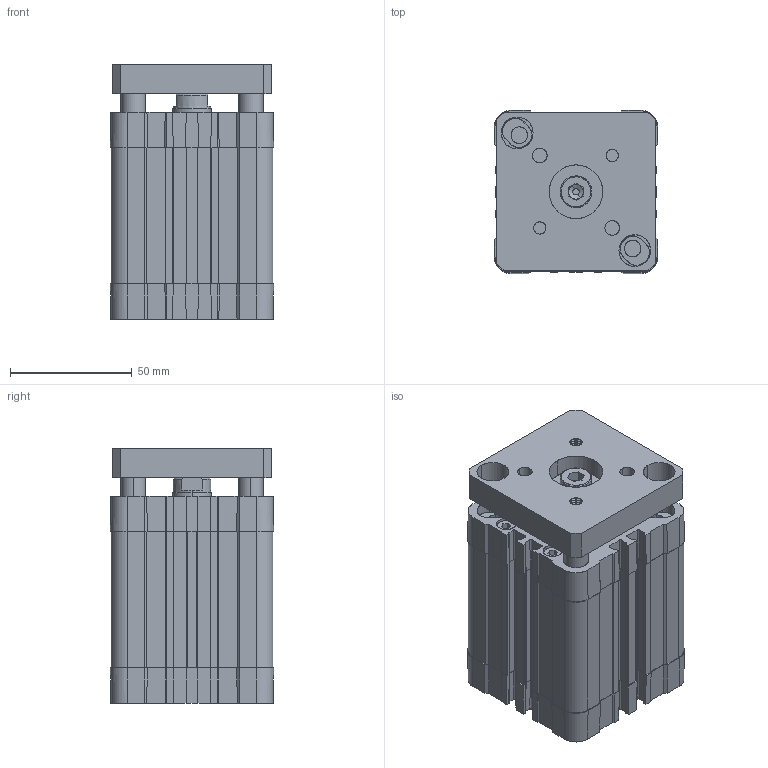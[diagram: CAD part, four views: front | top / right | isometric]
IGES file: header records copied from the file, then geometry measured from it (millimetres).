
Start section: SolidWorks IGES file using analytic representation for surfaces
Global section: file name: c:\CATALO3D\IGS\NSKI050.0040 F AR.IGS; native system: SolidWorks 2009; preprocessor: SolidWorks 2009; author: utente16; date: 110829.115156; units: millimetre
Bounding box: 67 x 67 x 104.5 mm (x, y, z)
Surface area: 103707.3 mm2 (no closed solid volume)
Topology: 0 solids, 0 shells, 1258 faces, 25808 edges, 32252 vertices
Faces by surface type: bspline 640, revolution 618
